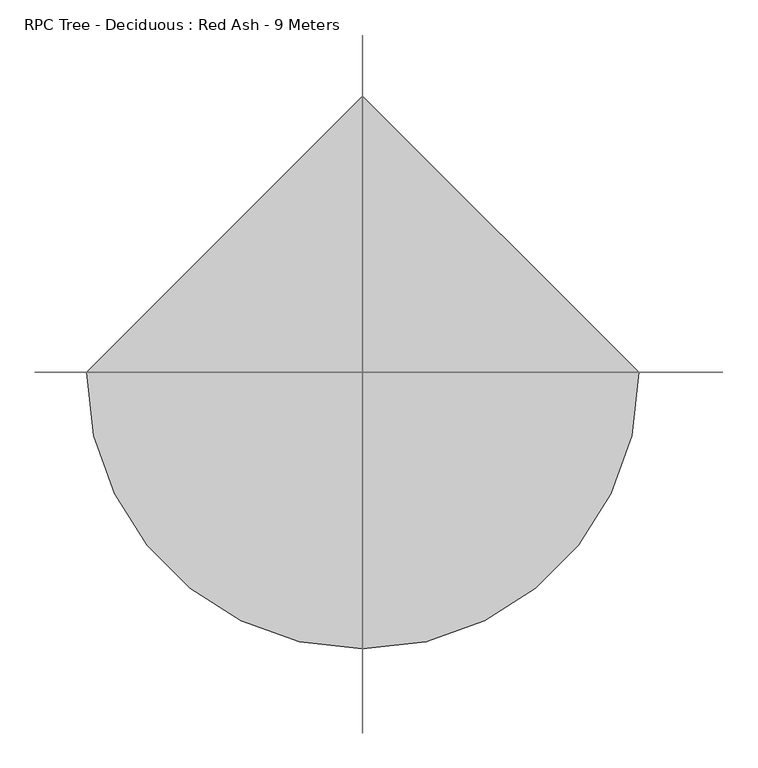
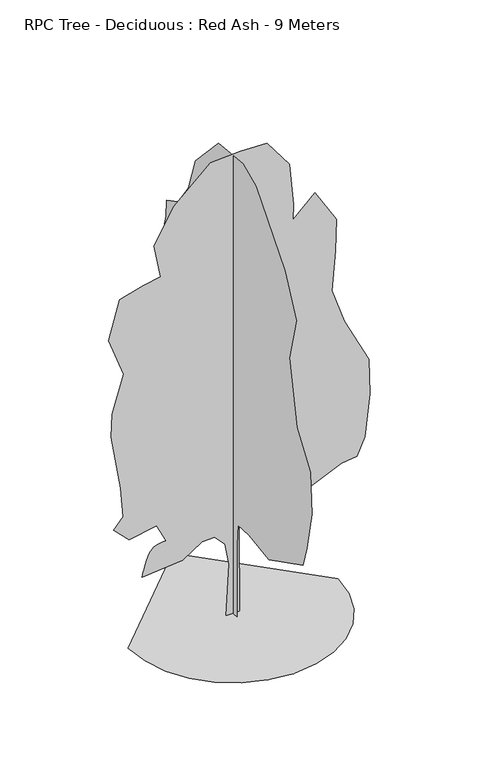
"""IFC4 building model written with IfcOpenShell, lengths in millimetres: geographic element geometry, RPC Tree - Deciduous : Red Ash - 9 Meters."""

from ifc_helpers import new_model, si_unit, origin, place, context, project, spatial, triangles, source, transform, mapped, element, save


def rpc_tree_deciduous_red_ash_9_meters_3d034f76(model_context):
    return source(origin(), model_context, "Body", "Tessellation", [
        triangles([(-1942.8572823, 0.0, 7.31e-05), (-1891.4942837, -445.1744259, 7.31e-05), (-1745.2138229, -853.9959108, 7.31e-05), (-1515.7279758, -1214.7512163, 7.31e-05), (-1214.7513617, -1515.7282665, 7.31e-05), (-853.9956928, -1745.2135323, 7.31e-05), (-445.1742442, -1891.4942837, 7.31e-05), (8.49e-05, -1942.8572823, 7.31e-05), (445.1744622, -1891.494429, 7.31e-05), (853.9959835, -1745.2136776, 7.31e-05), (1214.7513617, -1515.7279758, 7.31e-05), (1515.7285572, -1214.7513617, 7.31e-05), (1745.2136776, -853.9956202, 7.31e-05), (1891.4942837, -445.1741352, 7.31e-05), (1942.8572823, 0.0001698, 7.31e-05), (-0.0002548, 1942.8572823, 7.31e-05), (-1.27e-05, -121.471955, 0.0), (2.96e-05, -119.5827353, 1410.890625), (3.81e-05, -153.4038813, 1816.3026524), (8e-07, -518.2977242, 1840.3529285), (-6.83e-05, -1153.2180536, 1746.0317963), (-0.0001659, -2248.4559254, 2301.58713), (-0.0001669, -2375.4401802, 2714.2857765), (-0.0001607, -2534.1703171, 3476.1901428), (-0.0001321, -2486.551712, 4269.8411179), (-6.87e-05, -2055.5692978, 4890.9654144), (-6.5e-06, -1804.0141582, 6095.2384186), (-4.2e-06, -2026.2344604, 6952.380867), (5.66e-05, -1661.1555817, 7714.285524), (0.0001853, -740.5208605, 8809.5239044), (0.0002345, -322.6780149, 8997.8670593), (0.0003144, 465.8286884, 8920.6351456), (0.0003686, 1211.8604771, 8126.9841705), (0.0003719, 1434.0829594, 7460.317305), (0.0003925, 1767.4149387, 6984.1271851), (0.0004249, 2132.4958523, 6793.6510208), (0.0004171, 2148.3687206, 6476.1901657), (0.0004162, 2243.6070934, 6111.1112869), (0.0003868, 2084.8769566, 5682.539772), (0.0003894, 2227.7339344, 5269.8417068), (0.0003873, 2370.5910576, 4698.4132141), (0.0003793, 2338.8451756, 4539.6824959), (0.0003398, 2069.0040882, 4158.7301674), (0.0003224, 2051.942775, 3634.9205704), (0.0003109, 2037.2577702, 3301.5871376), (0.0003003, 2053.1309292, 2888.8890724), (0.0002849, 2069.0042336, 2317.460725), (0.0002565, 1846.7817513, 2142.8572838), (0.0002134, 1434.0835407, 2142.8572838), (0.0002158, 1624.559705, 1555.5557774), (0.0002026, 1592.7107769, 1222.304607), (0.0001791, 1302.792572, 1450.2004349), (0.0001165, 743.4598526, 1307.1350395), (0.0001157, 651.6281033, 1602.8278919), (7.43e-05, 255.0150846, 1599.2156124), (5.94e-05, 154.4896435, 1450.7889164), (3.86e-05, 93.955902, 966.4761818), (1.38e-05, 132.4795408, 1.51e-05), (-130.9498467, 5.7e-06, 5.27e-05), (-78.793083, -0.0001139, 984.4508114), (-152.7251618, -0.0001606, 1403.082962), (-343.4502571, -0.0001772, 1612.5799129), (-571.2241811, -0.0001663, 1604.7594601), (-940.4737719, -0.0001216, 1365.0796131), (-1686.5054878, -8.14e-05, 1301.5877037), (-1676.1857689, -8.68e-05, 1342.6354889), (-1665.1719063, -9.23e-05, 1385.0714161), (-1652.7697563, -9.83e-05, 1430.283918), (-1638.28503, -0.0001048, 1479.6618633), (-1621.0238743, -0.0001121, 1534.5917953), (-1600.2917095, -0.0001204, 1596.4646175), (-1575.3946827, -0.0001298, 1666.6667278), (-1544.0189816, -0.000139, 1731.7787418), (-1505.146209, -0.0001463, 1779.3976376), (-1460.0261433, -0.0001522, 1812.4389347), (-1409.9079815, -0.000157, 1833.8194611), (-1356.0416473, -0.0001608, 1846.4527016), (-1299.6760471, -0.0001641, 1853.255484), (-1242.0609592, -0.0001671, 1857.1428921), (-1416.6639645, -0.0002011, 2206.3491932), (-1924.6008385, -0.0001675, 2111.1111111), (-2210.3146488, -0.0001891, 2396.8257935), (-2035.7114983, -0.0002213, 2603.1751167), (-2083.330394, -0.0002874, 3174.6036095), (-2257.9335445, -0.0004065, 4238.0950905), (-2242.3001965, -0.0004597, 4678.5420433), (-2031.3986801, -0.0005537, 5389.7547363), (-2305.5527309, -0.0006315, 6142.8570236), (-2099.2032623, -0.0007276, 6873.0159439), (-1670.6323288, -0.0007614, 7000.0000534), (-1344.5826084, -0.0007825, 7057.5151474), (-1464.2832962, -0.0008537, 7698.4126556), (-1099.203618, -0.0009473, 8349.2066528), (-416.6637388, -0.0010509, 8968.254332), (138.8913587, -0.001079, 9000.0000687), (630.9552372, -0.0010986, 8984.126619), (1043.6535931, -0.0010504, 8428.5715759), (1119.5339178, -0.0009567, 7615.1787827), (1108.6380713, -0.0009207, 7316.8935013), (1519.8438583, -0.0009842, 7698.4126556), (1916.6693459, -0.0009239, 7047.6186584), (1900.7964775, -0.0008499, 6432.8852509), (1830.0679459, -0.0007559, 5670.0614639), (2059.526469, -0.0006861, 5000.0000381), (2517.8314888, -0.0005985, 4097.4778015), (2532.4433876, -0.000518, 3416.7042389), (2440.4786522, -0.000417, 2603.174826), (2297.6216743, -0.000371, 2269.8412479), (2011.9072826, -0.0003547, 2238.0952206), (1456.3519489, -0.0003002, 1984.1268562), (964.2880159, -0.000237, 1634.9207005), (304.1061652, -0.000242, 1918.7821529), (109.9026031, -0.0002086, 1709.8047924), (123.0179998, -5.4e-06, 4.16e-05)], [[15, 16, 1], [14, 15, 1], [14, 1, 2], [13, 14, 2], [13, 2, 3], [13, 3, 4], [12, 13, 4], [11, 12, 4], [11, 4, 5], [11, 5, 6], [11, 6, 7], [11, 7, 8], [11, 8, 9], [11, 9, 10], [50, 51, 52], [57, 58, 17], [57, 17, 18], [56, 57, 18], [56, 18, 19], [55, 56, 19], [49, 50, 52], [52, 53, 54], [49, 52, 54], [35, 36, 37], [46, 47, 48], [46, 48, 49], [21, 22, 23], [20, 21, 23], [20, 23, 24], [20, 24, 25], [20, 25, 26], [19, 20, 26], [19, 26, 27], [45, 46, 49], [31, 32, 33], [30, 31, 33], [29, 30, 33], [29, 33, 34], [28, 29, 34], [27, 28, 34], [19, 27, 34], [19, 34, 35], [19, 35, 37], [19, 37, 38], [19, 38, 39], [19, 39, 40], [19, 40, 41], [19, 41, 42], [19, 42, 43], [19, 43, 44], [19, 44, 45], [19, 45, 49], [19, 49, 54], [55, 19, 54], [64, 65, 66], [64, 66, 67], [64, 67, 68], [99, 100, 101], [64, 68, 69], [64, 69, 70], [64, 70, 71], [114, 59, 60], [113, 114, 60], [113, 60, 61], [113, 61, 62], [64, 71, 72], [64, 72, 73], [64, 73, 74], [64, 74, 75], [64, 75, 76], [64, 76, 77], [64, 77, 78], [64, 78, 79], [63, 64, 79], [81, 82, 83], [80, 81, 83], [99, 101, 102], [107, 108, 109], [110, 111, 112], [88, 89, 90], [87, 88, 90], [87, 90, 91], [80, 83, 84], [95, 96, 97], [95, 97, 98], [94, 95, 98], [93, 94, 98], [92, 93, 98], [91, 92, 98], [91, 98, 99], [87, 91, 99], [87, 99, 102], [87, 102, 103], [87, 103, 104], [86, 87, 104], [85, 86, 104], [84, 85, 104], [80, 84, 104], [80, 104, 105], [80, 105, 106], [80, 106, 107], [80, 107, 109], [80, 109, 110], [80, 110, 112], [79, 80, 112], [63, 79, 112], [62, 63, 112], [113, 62, 112]], closed=False),
    ])


if __name__ == "__main__":
    model = new_model("IFC4")
    model_context = context("Model", 3, world=origin())
    ifc_project = project(units=[si_unit("LENGTHUNIT", "METRE", prefix="MILLI")], contexts=[model_context])
    site = spatial("IfcSite", under=ifc_project)
    building = spatial("IfcBuilding", under=site)
    placement = place(None, origin())
    rpc_tree_deciduous_red_ash_9_meters_shape = rpc_tree_deciduous_red_ash_9_meters_3d034f76(model_context)
    element("IfcGeographicElement", 1, ObjectType="RPC Tree - Deciduous : Red Ash - 9 Meters", at=placement, inside=building, context=model_context, shape_type="MappedRepresentation", body=[
        mapped(rpc_tree_deciduous_red_ash_9_meters_shape, transform((0.0, 0.0, 0.0), x_axis=(1.0, 0.0, 0.0), y_axis=(0.0, 1.0, 0.0), z_axis=(0.0, 0.0, 1.0))),
    ])
    save(model, "model.ifc")
